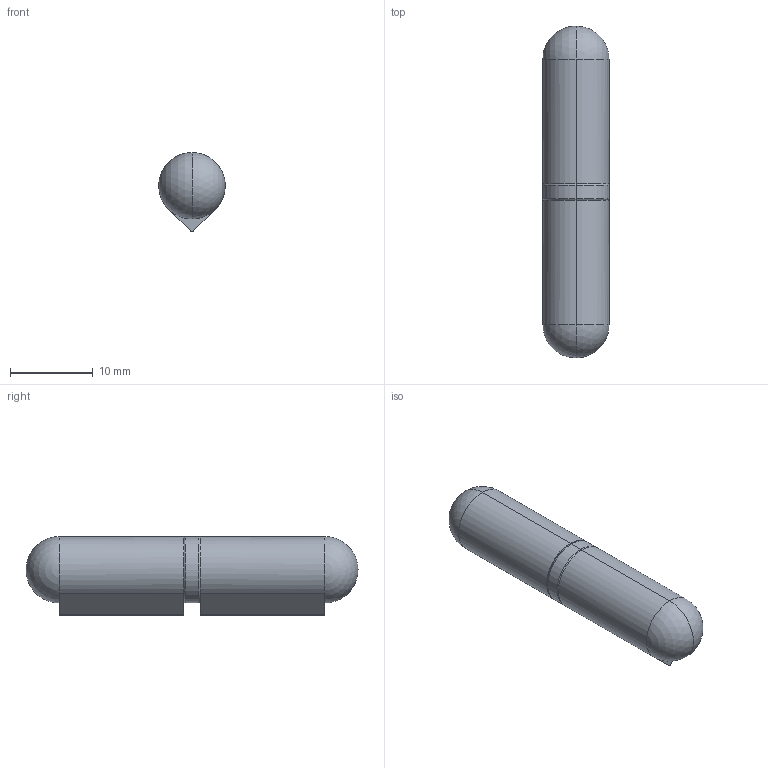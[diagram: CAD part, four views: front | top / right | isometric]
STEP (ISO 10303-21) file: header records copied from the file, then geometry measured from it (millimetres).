
FILE_DESCRIPTION (( 'STEP AP214' ), '1' );
FILE_NAME ('7011.00.040.STEP', '2021-01-21T03:41:14', ( '' ), ( '' ), 'SwSTEP 2.0', 'SolidWorks 2018', '' );
FILE_SCHEMA (( 'AUTOMOTIVE_DESIGN' ));
Length unit declared in the file: millimetre
Products named in the file (4): 7011.00-1_7004.00.040; 7011.00-3_7011.00.040; 7011.00-2_7011.00.040; 7011.00.040
Assembly tree (4 placements, depth 2):
  7011.00.040
    7011.00-1_7004.00.040  x2
    7011.00-2_7011.00.040
    7011.00-3_7011.00.040
Bounding box: 8 x 40 x 9.5 mm (x, y, z)
Volume: 1911.4 mm3; surface area: 2019.3 mm2
Topology: 4 solids, 4 shells, 45 faces, 104 edges, 63 vertices
Faces by surface type: cylinder 18, plane 13, torus 8, sphere 6
Entity records: 1100 total; most frequent: DIRECTION 188, CARTESIAN_POINT 142, ORIENTED_EDGE 128, AXIS2_PLACEMENT_3D 85, EDGE_CURVE 64, CIRCLE 46, VERTEX_POINT 39, EDGE_LOOP 35
